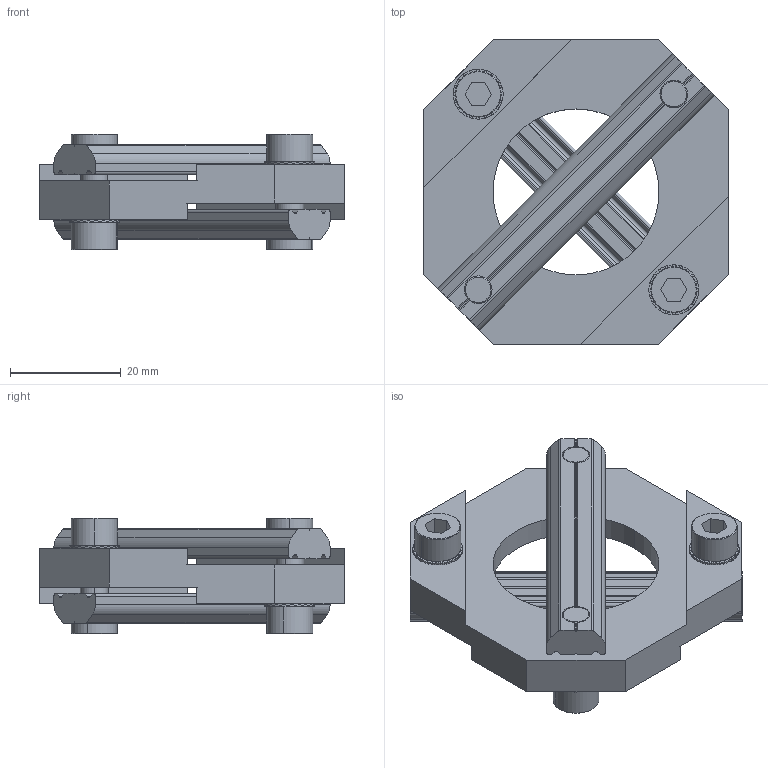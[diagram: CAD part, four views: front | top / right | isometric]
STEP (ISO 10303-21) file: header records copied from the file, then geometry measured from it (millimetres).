
FILE_DESCRIPTION (( 'STEP AP214' ), '1' );
FILE_NAME ('SMBA-4040.STEP', '2019-10-31T02:19:18', ( '微软用户' ), ( '微软中国' ), 'SwSTEP 2.0', 'SolidWorks 2016', '' );
FILE_SCHEMA (( 'AUTOMOTIVE_DESIGN' ));
Length unit declared in the file: millimetre
Products named in the file (5): PTC-M5L14; SMBA-4040; PTN-M5P50; PTS-M5
Assembly tree (11 placements, depth 2):
  SMBA-4040
    SMBA-4040
    PTC-M5L14  x4
    PTN-M5P50  x2
    PTS-M5  x4
Bounding box: 55 x 55 x 20.9 mm (x, y, z)
Volume: 18278.1 mm3; surface area: 12916.9 mm2
Topology: 11 solids, 11 shells, 864 faces, 2526 edges, 1676 vertices
Faces by surface type: plane 754, cylinder 86, cone 24
Entity records: 9140 total; most frequent: CARTESIAN_POINT 1746, ORIENTED_EDGE 1536, DIRECTION 1526, EDGE_CURVE 768, AXIS2_PLACEMENT_3D 514, VERTEX_POINT 510, VECTOR 498, LINE 498
